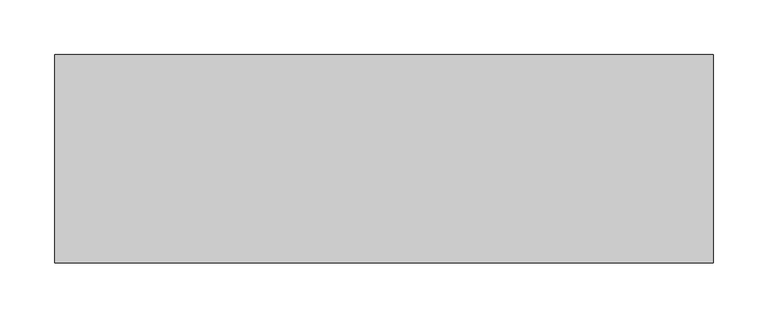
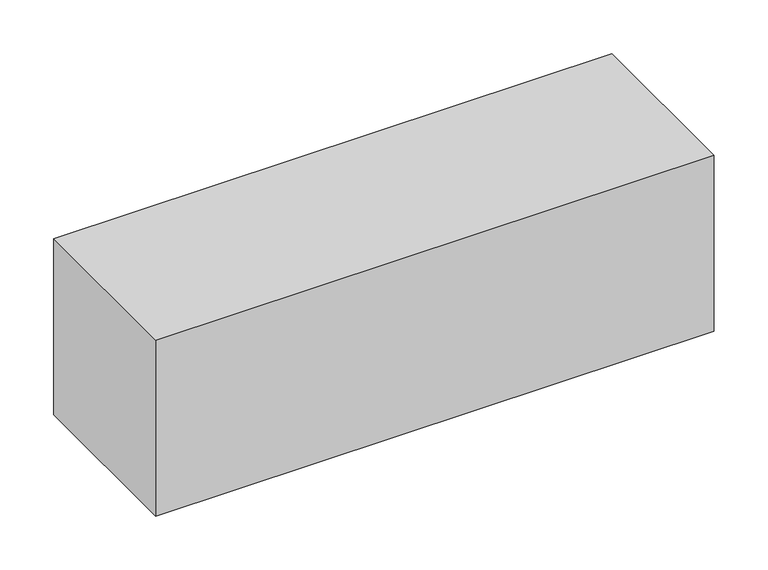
"""IFC4 building model written with IfcOpenShell, lengths in millimetres: proxy geometry, Módulo 51 dB de Concreto Celular - Celucon : M51dB 19x20x60cm (L x A x C)."""

from ifc_helpers import new_model, si_unit, origin, origin_with_axes, place, context, project, spatial, polyline, outline, extrude, source, transform, mapped, element, save


def generic_models_8f744a5b(model_context):
    return source(origin(), model_context, "Body", "SweptSolid", [
        extrude(outline(polyline([(300.0, 95.0), (300.0, -95.0), (-300.0, -95.0), (-300.0, 95.0), (300.0, 95.0)])), origin_with_axes(), (0.0, 0.0, 1.0), 200.0),
    ])


if __name__ == "__main__":
    model = new_model("IFC4")
    model_context = context("Model", 3, world=origin())
    ifc_project = project(units=[si_unit("LENGTHUNIT", "METRE", prefix="MILLI")], contexts=[model_context])
    site = spatial("IfcSite", under=ifc_project)
    building = spatial("IfcBuilding", under=site)
    placement = place(None, origin())
    generic_models_shape = generic_models_8f744a5b(model_context)
    element("IfcBuildingElementProxy", 1, Name="Módulo 51 dB de Concreto Celular - Celucon : M51dB 19x20x60cm (L x A x C)", ObjectType="Módulo 51 dB de Concreto Celular - Celucon : M51dB 19x20x60cm (L x A x C)", at=placement, inside=building, context=model_context, shape_type="MappedRepresentation", body=[
        mapped(generic_models_shape, transform((0.0, 0.0, 0.0), x_axis=(1.0, 0.0, 0.0), y_axis=(0.0, 1.0, 0.0), z_axis=(0.0, 0.0, 1.0))),
    ])
    save(model, "model.ifc")
